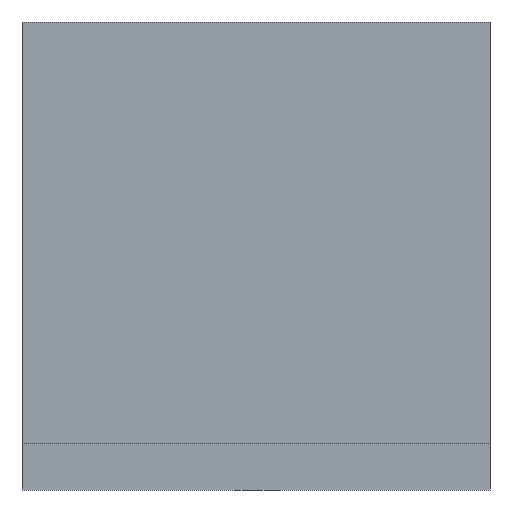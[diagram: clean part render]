
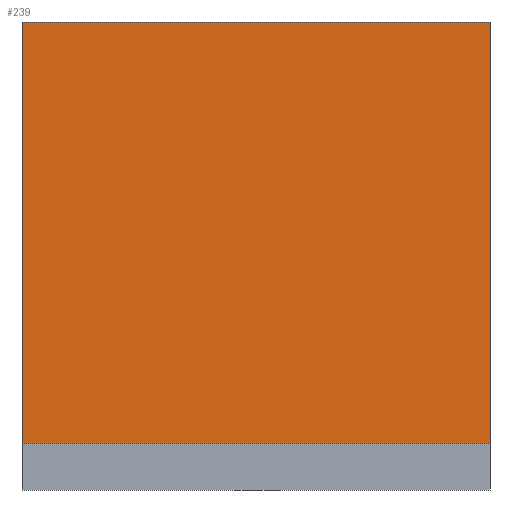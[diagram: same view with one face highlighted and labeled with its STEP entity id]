
A CAD part, front view. The second image highlights one B-rep face of the part: STEP entity #239.
In plain terms, the highlighted planar face has unit normal (0, -1, 0).
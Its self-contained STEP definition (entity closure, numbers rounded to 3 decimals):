
#48 = VERTEX_POINT('',#49);
#49 = CARTESIAN_POINT('',(0.,70.,10.));
#103 = VERTEX_POINT('',#104);
#104 = CARTESIAN_POINT('',(100.,70.,10.));
#110 = EDGE_CURVE('',#48,#103,#111,.T.);
#111 = LINE('',#112,#113);
#112 = CARTESIAN_POINT('',(0.,70.,10.));
#113 = VECTOR('',#114,1.);
#114 = DIRECTION('',(1.,0.,0.));
#135 = EDGE_CURVE('',#48,#136,#138,.T.);
#136 = VERTEX_POINT('',#137);
#137 = CARTESIAN_POINT('',(0.,70.,100.));
#138 = LINE('',#139,#140);
#139 = CARTESIAN_POINT('',(0.,70.,10.));
#140 = VECTOR('',#141,1.);
#141 = DIRECTION('',(0.,0.,1.));
#239 = ADVANCED_FACE('',(#240),#258,.F.);
#240 = FACE_BOUND('',#241,.F.);
#241 = EDGE_LOOP('',(#242,#243,#244,#252));
#242 = ORIENTED_EDGE('',*,*,#110,.F.);
#243 = ORIENTED_EDGE('',*,*,#135,.T.);
#244 = ORIENTED_EDGE('',*,*,#245,.T.);
#245 = EDGE_CURVE('',#136,#246,#248,.T.);
#246 = VERTEX_POINT('',#247);
#247 = CARTESIAN_POINT('',(100.,70.,100.));
#248 = LINE('',#249,#250);
#249 = CARTESIAN_POINT('',(0.,70.,100.));
#250 = VECTOR('',#251,1.);
#251 = DIRECTION('',(1.,0.,0.));
#252 = ORIENTED_EDGE('',*,*,#253,.F.);
#253 = EDGE_CURVE('',#103,#246,#254,.T.);
#254 = LINE('',#255,#256);
#255 = CARTESIAN_POINT('',(100.,70.,10.));
#256 = VECTOR('',#257,1.);
#257 = DIRECTION('',(0.,0.,1.));
#258 = PLANE('',#259);
#259 = AXIS2_PLACEMENT_3D('',#260,#261,#262);
#260 = CARTESIAN_POINT('',(0.,70.,10.));
#261 = DIRECTION('',(0.,1.,0.));
#262 = DIRECTION('',(0.,0.,1.));
